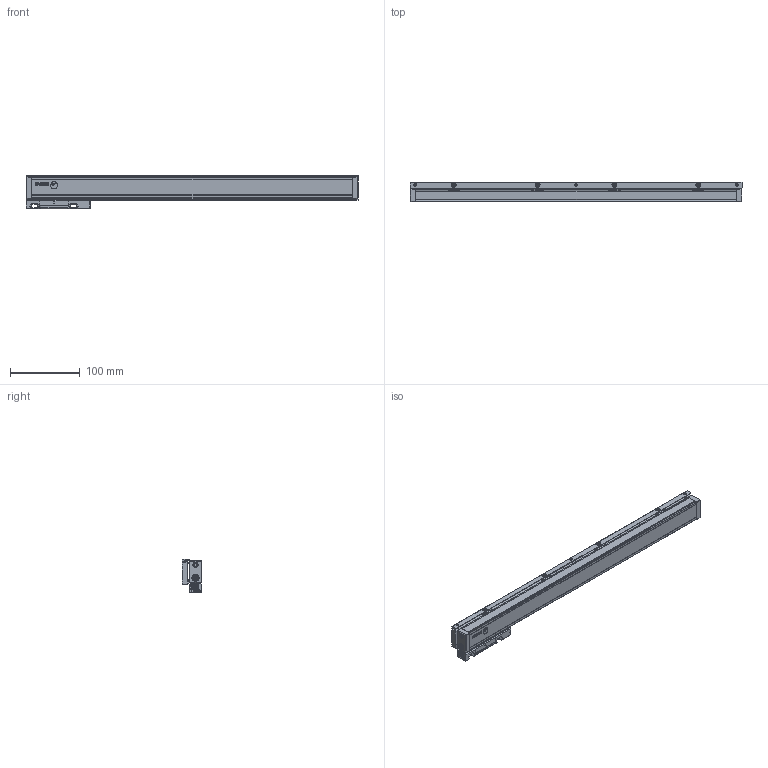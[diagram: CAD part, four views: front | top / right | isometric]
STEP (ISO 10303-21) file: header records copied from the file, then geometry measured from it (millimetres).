
FILE_DESCRIPTION(('Creo Elements/Direct Modeling STEP Export'),'2;1');
FILE_NAME('REGLA_SV3-370-B.stp','2020-10-30T12:17:12',(''),(''),'Creo Elements/Direct Modeling STEP processor for AP214 (Solid Model)','Creo Elements/Direct Modeling 19.0G 27-Nov-2017 (C) Parametric Technology GmbH','');
FILE_SCHEMA(('AUTOMOTIVE_DESIGN { 1 0 10303 214 1 1 1 1 }'));
Length unit declared in the file: millimetre
Products named in the file (4): PERFIL_REGLA_SV3-370; CABEZA_RANURADA_REGLA_S3; PERFIL_SOPORTE_MECANIZADO_REGLA_SV3-370; REGLA_SV3-370
Assembly tree (3 placements, depth 2):
  REGLA_SV3-370
    PERFIL_SOPORTE_MECANIZADO_REGLA_SV3-370
    CABEZA_RANURADA_REGLA_S3
    PERFIL_REGLA_SV3-370
Bounding box: 475 x 28.3 x 48.1 mm (x, y, z)
Volume: 388449.4 mm3; surface area: 130254.3 mm2
Topology: 3 solids, 26 shells, 2346 faces, 7373 edges, 5131 vertices
Faces by surface type: plane 1436, cylinder 661, cone 200, bspline 25, torus 24
Entity records: 94924 total; most frequent: CARTESIAN_POINT 19498, ORIENTED_EDGE 14702, DIRECTION 11899, EDGE_CURVE 7349, VERTEX_POINT 5131, VECTOR 5077, LINE 5077, AXIS2_PLACEMENT_3D 3411
